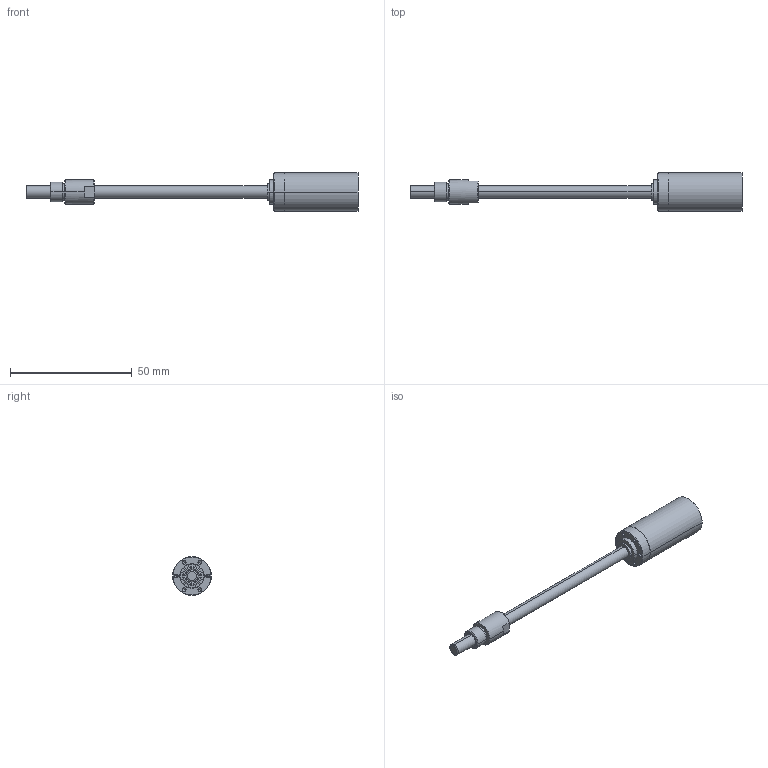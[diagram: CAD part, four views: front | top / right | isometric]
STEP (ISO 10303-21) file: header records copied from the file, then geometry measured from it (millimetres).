
FILE_DESCRIPTION((''),'2;1');
FILE_NAME('424224_GP16S_KG-4ST','2016-10-05T',('mmagpetk'),(''),'CREO PARAMETRIC BY PTC INC, 2016050','CREO PARAMETRIC BY PTC INC, 2016050','');
FILE_SCHEMA(('CONFIG_CONTROL_DESIGN'));
Length unit declared in the file: millimetre
Products named in the file (1): 424224_GP16S_KG-4ST
Bounding box: 136.6 x 16 x 16 mm (x, y, z)
Volume: 9422.1 mm3; surface area: 4873 mm2
Topology: 1 solids, 1 shells, 106 faces, 234 edges, 140 vertices
Faces by surface type: cylinder 46, cone 36, plane 22, torus 2
Entity records: 4920 total; most frequent: CARTESIAN_POINT 584, DIRECTION 552, ORIENTED_EDGE 444, PRESENTATION_STYLE_ASSIGNMENT 321, AXIS2_PLACEMENT_3D 232, STYLED_ITEM 223, CURVE_STYLE 222, EDGE_CURVE 222
